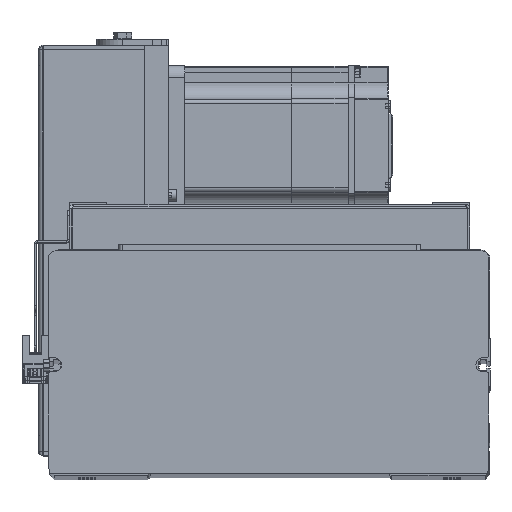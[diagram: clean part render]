
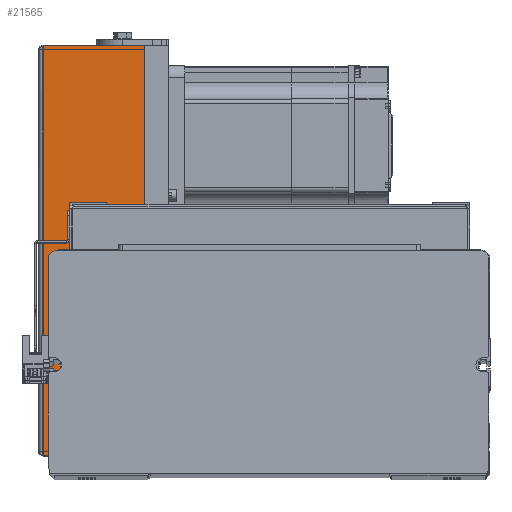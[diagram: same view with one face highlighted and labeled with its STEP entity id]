
A CAD part, top view. The second image highlights one B-rep face of the part: STEP entity #21565.
In plain terms, the highlighted planar face has unit normal (0, 0, 1) as drawn and (0, 1, 0) by its records, which use the part's own axes.
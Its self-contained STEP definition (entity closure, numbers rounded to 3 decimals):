
#619 = AXIS2_PLACEMENT_3D ( 'NONE', #26851, #7690, #7446 ) ;
#746 = VERTEX_POINT ( 'NONE', #37465 ) ;
#2469 = VECTOR ( 'NONE', #15665, 1000. ) ;
#2937 = FACE_OUTER_BOUND ( 'NONE', #21310, .T. ) ;
#4752 = EDGE_CURVE ( 'NONE', #24778, #8161, #20073, .T. ) ;
#7171 = ORIENTED_EDGE ( 'NONE', *, *, #26270, .F. ) ;
#7446 = DIRECTION ( 'NONE',  ( 0., 0., 1. ) ) ;
#7690 = DIRECTION ( 'NONE',  ( 0., -1., 0. ) ) ;
#7792 = VERTEX_POINT ( 'NONE', #11981 ) ;
#8161 = VERTEX_POINT ( 'NONE', #26003 ) ;
#8339 = LINE ( 'NONE', #46899, #2469 ) ;
#9323 = EDGE_CURVE ( 'NONE', #746, #8161, #22374, .T. ) ;
#11303 = VECTOR ( 'NONE', #37314, 1000. ) ;
#11981 = CARTESIAN_POINT ( 'NONE',  ( 102.5, 54., 62.7 ) ) ;
#12144 = CARTESIAN_POINT ( 'NONE',  ( -102.5, 54., 62.7 ) ) ;
#13483 = ORIENTED_EDGE ( 'NONE', *, *, #4752, .T. ) ;
#15665 = DIRECTION ( 'NONE',  ( 0., 0., -1. ) ) ;
#16423 = VECTOR ( 'NONE', #42909, 1000. ) ;
#19821 = CARTESIAN_POINT ( 'NONE',  ( 0., 54., 12. ) ) ;
#20073 = LINE ( 'NONE', #19821, #40540 ) ;
#21310 = EDGE_LOOP ( 'NONE', ( #7171, #43686, #13483, #44978 ) ) ;
#21565 = ADVANCED_FACE ( 'NONE', ( #2937 ), #45244, .F. ) ;
#22374 = LINE ( 'NONE', #26168, #11303 ) ;
#23866 = DIRECTION ( 'NONE',  ( -1., 0., 0. ) ) ;
#24778 = VERTEX_POINT ( 'NONE', #29334 ) ;
#26003 = CARTESIAN_POINT ( 'NONE',  ( -102.5, 54., 12. ) ) ;
#26168 = CARTESIAN_POINT ( 'NONE',  ( -102.5, 54., 62.7 ) ) ;
#26270 = EDGE_CURVE ( 'NONE', #7792, #746, #38421, .T. ) ;
#26851 = CARTESIAN_POINT ( 'NONE',  ( 0., 54., 63. ) ) ;
#29334 = CARTESIAN_POINT ( 'NONE',  ( 102.5, 54., 12. ) ) ;
#37314 = DIRECTION ( 'NONE',  ( 0., 0., -1. ) ) ;
#37465 = CARTESIAN_POINT ( 'NONE',  ( -102.5, 54., 62.7 ) ) ;
#38421 = LINE ( 'NONE', #12144, #16423 ) ;
#40540 = VECTOR ( 'NONE', #23866, 1000. ) ;
#42909 = DIRECTION ( 'NONE',  ( -1., 0., 0. ) ) ;
#43686 = ORIENTED_EDGE ( 'NONE', *, *, #44181, .T. ) ;
#44181 = EDGE_CURVE ( 'NONE', #7792, #24778, #8339, .T. ) ;
#44978 = ORIENTED_EDGE ( 'NONE', *, *, #9323, .F. ) ;
#45244 = PLANE ( 'NONE',  #619 ) ;
#46899 = CARTESIAN_POINT ( 'NONE',  ( 102.5, 54., 62.7 ) ) ;
